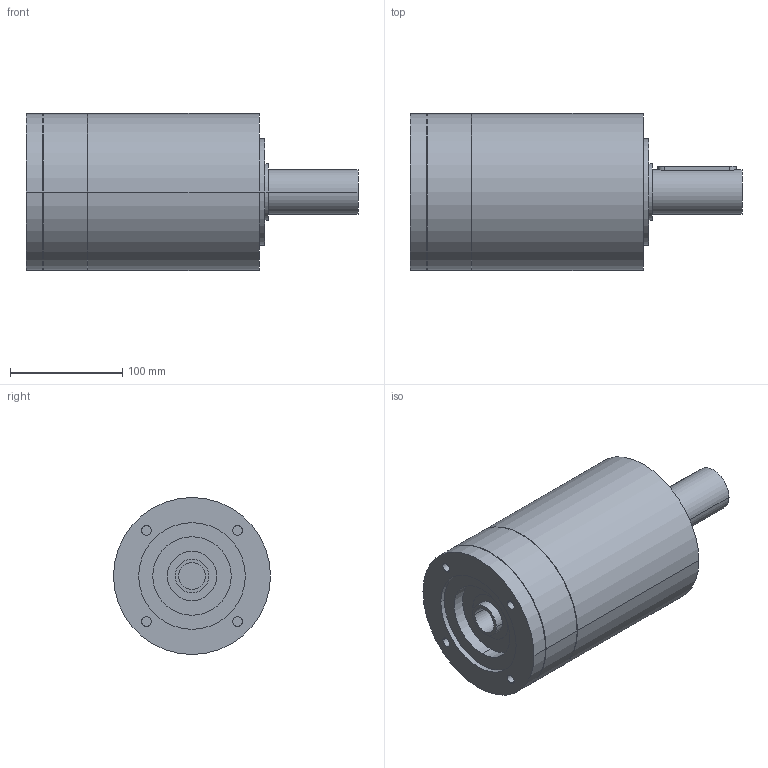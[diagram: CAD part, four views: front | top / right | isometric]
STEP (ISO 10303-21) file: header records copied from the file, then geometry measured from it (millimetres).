
FILE_DESCRIPTION(('CoCreate Modeling STEP Export'),'2;1');
FILE_NAME('GPR150_ig-9-12-16-20-28-35_40_B14_24_P03.stp','2014-08-19T17:03:29',(''),(''),'CoCreate Modeling STEP processor for AP214 (Solid Model)','CoCreate Modeling 16.00C 25-Feb-2009 (C) Parametric Technology GmbH','');
FILE_SCHEMA(('AUTOMOTIVE_DESIGN { 1 0 10303 214 1 1 1 1 }'));
Length unit declared in the file: millimetre
Products named in the file (2): GPR150_ig-9-12-16-20-28-35_40_B14_24_P03
Assembly tree (1 placements, depth 2):
  GPR150_ig-9-12-16-20-28-35_40_B14_24_P03
    GPR150_ig-9-12-16-20-28-35_40_B14_24_P03
Bounding box: 296 x 140 x 140 mm (x, y, z)
Volume: 3234942.4 mm3; surface area: 151498.4 mm2
Topology: 1 solids, 1 shells, 83 faces, 205 edges, 145 vertices
Faces by surface type: cylinder 50, plane 27, cone 6
Entity records: 2105 total; most frequent: ORIENTED_EDGE 406, CARTESIAN_POINT 401, DIRECTION 274, EDGE_CURVE 203, VERTEX_POINT 145, AXIS2_PLACEMENT_3D 106, EDGE_LOOP 106, FACE_OUTER_BOUND 83
